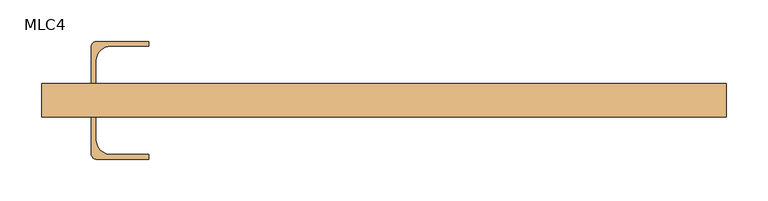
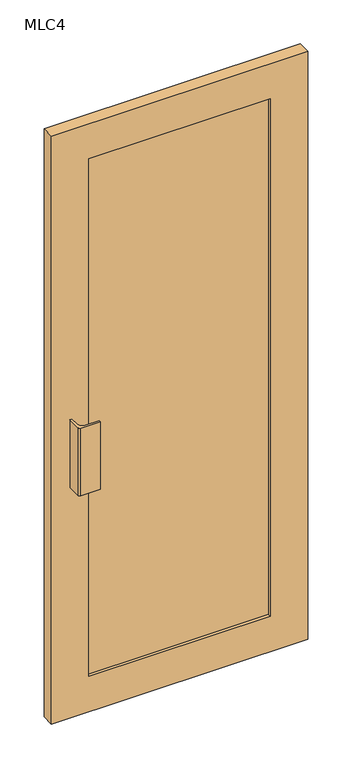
"""IFC4 building model written with IfcOpenShell, lengths in millimetres: door geometry, 门嵌板_单开门2 : MLC4."""

from ifc_helpers import new_model, si_unit, point, frame, frame_2d, origin, place, context, project, spatial, polyline, circle_curve, trimmed, segment, composite_curve, outline, extrude, source, transform, mapped, element, save


def mlc4_63d6f031(model_context):
    return source(origin(), model_context, "Body", "SweptSolid", [
        extrude(outline(composite_curve([segment(polyline([(-352.5, 20.0), (-352.5, 65.0)]), True, "CONTINUOUS"), segment(trimmed(circle_curve(frame_2d((-346.5, 65.0)), 6.0), [point((-352.5, 65.0))], [point((-346.5, 71.0))], False, "CARTESIAN"), True, "CONTINUOUS"), segment(polyline([(-346.5, 71.0), (-283.5, 71.0), (-283.5, 65.5), (-329.0, 65.5)]), True, "CONTINUOUS"), segment(trimmed(circle_curve(frame_2d((-329.0, 47.5)), 18.0), [point((-329.0, 65.5))], [point((-347.0, 47.5))], True, "CARTESIAN"), True, "CONTINUOUS"), segment(polyline([(-347.0, 47.5), (-347.0, 20.0), (-352.5, 20.0)]), True, "CONTINUOUS")], self_intersect=False)), frame((0.0, 0.0, 785.0), z_axis=(0.0, 0.0, 1.0), x_axis=(1.0, 0.0, 0.0)), (0.0, 0.0, 1.0), 230.0),
        extrude(outline(composite_curve([segment(polyline([(-352.5, -20.0), (-347.0, -20.0), (-347.0, -47.5)]), True, "CONTINUOUS"), segment(trimmed(circle_curve(frame_2d((-329.0, -47.5)), 18.0), [point((-347.0, -47.5))], [point((-329.0, -65.5))], True, "CARTESIAN"), True, "CONTINUOUS"), segment(polyline([(-329.0, -65.5), (-283.5, -65.5), (-283.5, -71.0), (-346.5, -71.0)]), True, "CONTINUOUS"), segment(trimmed(circle_curve(frame_2d((-346.5, -65.0)), 6.0), [point((-346.5, -71.0))], [point((-352.5, -65.0))], False, "CARTESIAN"), True, "CONTINUOUS"), segment(polyline([(-352.5, -65.0), (-352.5, -20.0)]), True, "CONTINUOUS")], self_intersect=False)), frame((0.0, 0.0, 785.0), z_axis=(0.0, 0.0, 1.0), x_axis=(1.0, 0.0, 0.0)), (0.0, 0.0, 1.0), 230.0),
        extrude(outline(polyline([(292.5, -10.0), (-292.5, -10.0), (-292.5, 10.0), (292.5, 10.0), (292.5, -10.0)])), frame((0.0, 0.0, 120.0), z_axis=(0.0, 0.0, 1.0), x_axis=(1.0, 0.0, 0.0)), (0.0, 0.0, 1.0), 1761.0),
        extrude(outline(polyline([(2001.0, -412.5), (0.0, -412.5), (0.0, 412.5), (2001.0, 412.5), (2001.0, -412.5)]), holes=[polyline([(1881.0, -292.5), (1881.0, 292.5), (120.0, 292.5), (120.0, -292.5), (1881.0, -292.5)])]), frame((0.0, -20.0, 0.0), z_axis=(0.0, 1.0, 0.0), x_axis=(0.0, 0.0, 1.0)), (0.0, 0.0, 1.0), 40.0),
    ])


if __name__ == "__main__":
    model = new_model("IFC4")
    model_context = context("Model", 3, world=origin())
    ifc_project = project(units=[si_unit("LENGTHUNIT", "METRE", prefix="MILLI")], contexts=[model_context])
    site = spatial("IfcSite", under=ifc_project)
    building = spatial("IfcBuilding", under=site)
    placement = place(None, origin())
    mlc4_shape = mlc4_63d6f031(model_context)
    element("IfcDoor", 1, ObjectType="门嵌板_单开门2 : MLC4", at=placement, inside=building, context=model_context, shape_type="MappedRepresentation", body=[
        mapped(mlc4_shape, transform((0.0, 0.0, 0.0), x_axis=(1.0, 0.0, 0.0), y_axis=(0.0, 1.0, 0.0), z_axis=(0.0, 0.0, 1.0))),
    ])
    save(model, "model.ifc")
